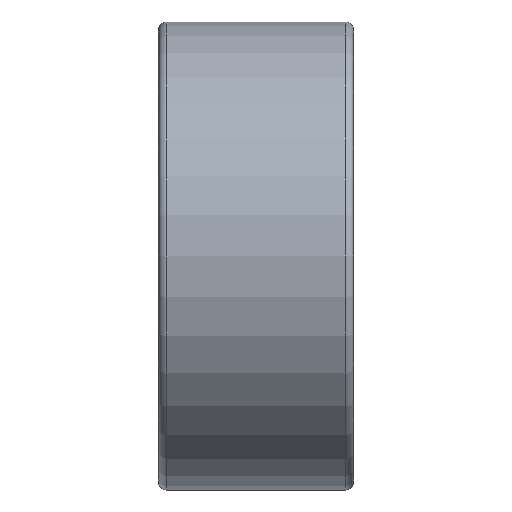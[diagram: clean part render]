
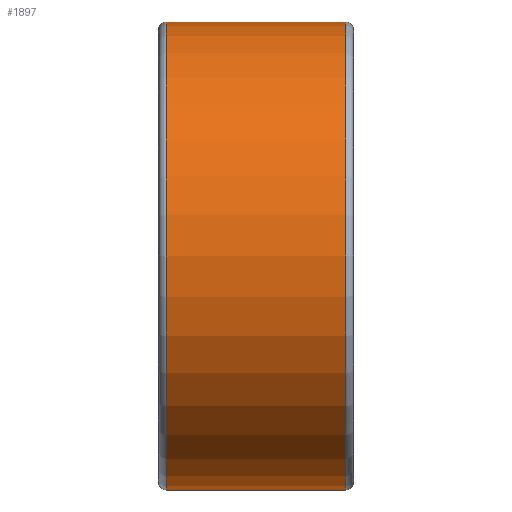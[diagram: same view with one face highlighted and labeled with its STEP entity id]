
A CAD part, front view. The second image highlights one B-rep face of the part: STEP entity #1897.
In plain terms, the highlighted cylindrical face has radius 3 mm (diameter 6 mm), a partial arc.
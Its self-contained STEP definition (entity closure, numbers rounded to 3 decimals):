
#209=CARTESIAN_POINT('',(1.15,0.,0.));
#210=DIRECTION('',(-1.,0.,0.));
#211=DIRECTION('',(0.,0.,-1.));
#212=AXIS2_PLACEMENT_3D('',#209,#210,#211);
#798=DIRECTION('',(-1.,0.,0.));
#799=VECTOR('',#798,2.3);
#800=CARTESIAN_POINT('',(1.15,0.,3.));
#801=LINE('',#800,#799);
#802=DIRECTION('',(-1.,0.,0.));
#803=VECTOR('',#802,2.3);
#804=CARTESIAN_POINT('',(1.15,0.,-3.));
#805=LINE('',#804,#803);
#811=CARTESIAN_POINT('',(-1.15,0.,0.));
#812=DIRECTION('',(1.,0.,0.));
#813=DIRECTION('',(0.,0.,1.));
#814=AXIS2_PLACEMENT_3D('',#811,#812,#813);
#966=CARTESIAN_POINT('',(1.15,0.,3.));
#967=VERTEX_POINT('',#966);
#968=CARTESIAN_POINT('',(1.15,0.,-3.));
#969=VERTEX_POINT('',#968);
#970=CARTESIAN_POINT('',(-1.15,0.,-3.));
#971=VERTEX_POINT('',#970);
#972=CARTESIAN_POINT('',(-1.15,0.,3.));
#973=VERTEX_POINT('',#972);
#1885=CARTESIAN_POINT('',(0.,0.,0.));
#1886=DIRECTION('',(-1.,0.,0.));
#1887=DIRECTION('',(0.,0.,1.));
#1888=AXIS2_PLACEMENT_3D('',#1885,#1886,#1887);
#1889=CYLINDRICAL_SURFACE('',#1888,3.);
#1890=ORIENTED_EDGE('',*,*,#1880,.T.);
#1892=ORIENTED_EDGE('',*,*,#1891,.F.);
#1893=ORIENTED_EDGE('',*,*,#1877,.F.);
#1894=ORIENTED_EDGE('',*,*,#1021,.F.);
#1895=EDGE_LOOP('',(#1890,#1892,#1893,#1894));
#1896=FACE_OUTER_BOUND('',#1895,.F.);
#1897=ADVANCED_FACE('',(#1896),#1889,.T.);
#213=CIRCLE('',#212,3.);
#815=CIRCLE('',#814,3.);
#1021=EDGE_CURVE('',#969,#967,#213,.T.);
#1877=EDGE_CURVE('',#967,#973,#801,.T.);
#1880=EDGE_CURVE('',#969,#971,#805,.T.);
#1891=EDGE_CURVE('',#973,#971,#815,.T.);
